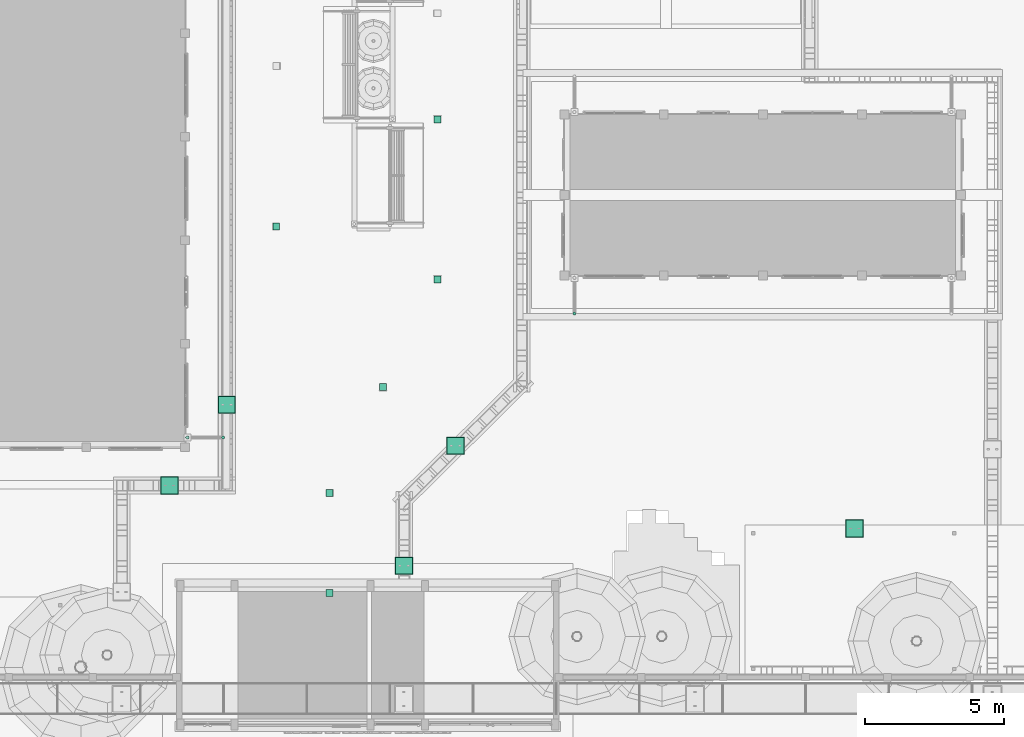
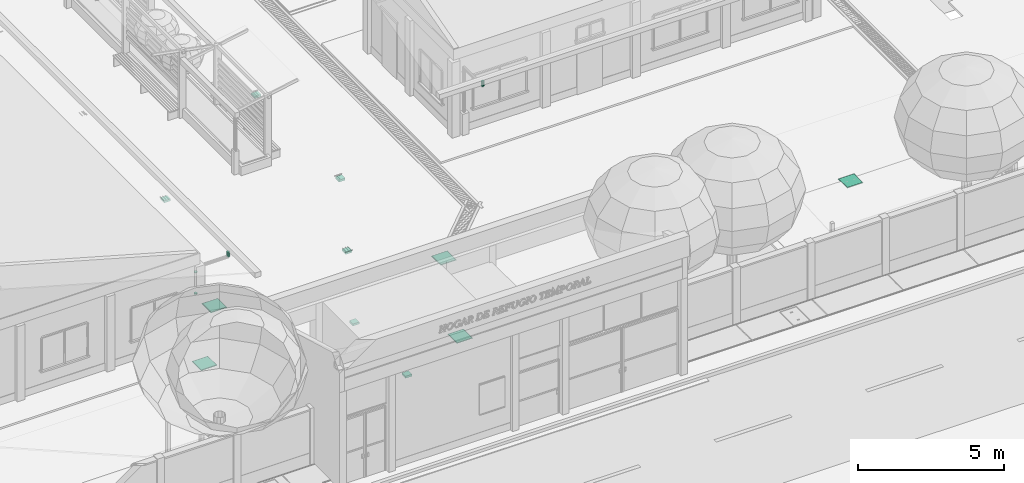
# One storey, part 110 of 166: 10 distribution chamber elements, 6 flow terminals, 4 flow segments.
"""IFC2X3 building model written with IfcOpenShell, lengths in metres."""

import ifcopenshell
import ifcopenshell.guid

model = None  # the IFC model being written
_history = None  # IfcOwnerHistory: only IFC2X3 demands one
_inside = {}  # id of a spatial element -> (the spatial element, [elements in it])
_under = {}  # id of a project, library or spatial element -> (it, [spatial elements below it])
_declared = {}  # id of a project -> (the project, [libraries it declares])
_typed = {}  # id of a type object -> (the type object, [elements of that type])
_made_of = {}  # id of a material, layer set ... -> (it, [elements and type objects made of it])


def new_model(schema):
    """Start an empty IFC model of exactly this schema.

    Asked for "IFC4X3", IfcOpenShell would pick the latest addendum, in which some entities
    have other attributes; the version numbers below select the first issue.
    IFC2X3 requires an IfcOwnerHistory on every rooted entity: one is made here for all.
    """
    global model, _history
    if schema == "IFC4X3":
        model = ifcopenshell.file(schema_version=(4, 3, 0, 0))
    else:
        model = ifcopenshell.file(schema=schema)
    _inside.clear()
    _under.clear()
    _declared.clear()
    _typed.clear()
    _made_of.clear()
    _history = None
    if model.schema == "IFC2X3":
        org = make("IfcOrganization", Name="unknown")
        user = make(
            "IfcPersonAndOrganization",
            ThePerson=make("IfcPerson", FamilyName="unknown"),
            TheOrganization=org,
        )
        app = make(
            "IfcApplication",
            ApplicationDeveloper=org,
            Version="unknown",
            ApplicationFullName="unknown",
            ApplicationIdentifier="unknown",
        )
        _history = make(
            "IfcOwnerHistory",
            OwningUser=user,
            OwningApplication=app,
            ChangeAction="ADDED",
            CreationDate=0,
        )
    return model


def make(cls, **values):
    """One entity of the class cls with the attributes given. An attribute that is None is left unset."""
    return model.create_entity(
        cls, **{name: value for name, value in values.items() if value is not None}
    )


def rooted(cls, **values):
    """An entity with a GlobalId (a new one), such as an element, a storey or a relation."""
    return make(cls, GlobalId=ifcopenshell.guid.new(), OwnerHistory=_history, **values)


def si_unit(unit_type, name, prefix=None):
    """IfcSIUnit, for example si_unit("LENGTHUNIT", "METRE", prefix="MILLI")."""
    return make("IfcSIUnit", UnitType=unit_type, Prefix=prefix, Name=name)


def assignment(units):
    """IfcUnitAssignment: the units of a project."""
    return None if units is None else make("IfcUnitAssignment", Units=units)


def point(xyz):
    """IfcCartesianPoint."""
    return None if xyz is None else make("IfcCartesianPoint", Coordinates=xyz)


def direction(xyz):
    """IfcDirection."""
    return None if xyz is None else make("IfcDirection", DirectionRatios=xyz)


def frame(location, z_axis=None, x_axis=None):
    """IfcAxis2Placement3D, a coordinate frame: its origin and axes. An axis left out is left unset."""
    return make(
        "IfcAxis2Placement3D",
        Location=point(location),
        Axis=direction(z_axis),
        RefDirection=direction(x_axis),
    )


def origin():
    """The frame at (0, 0, 0) with its axes left unset."""
    return frame((0.0, 0.0, 0.0))


def origin_with_axes():
    """The frame at (0, 0, 0) with the z axis (0, 0, 1) and the x axis (1, 0, 0) written out."""
    return frame((0.0, 0.0, 0.0), z_axis=(0.0, 0.0, 1.0), x_axis=(1.0, 0.0, 0.0))


def place(relative_to, where):
    """IfcLocalPlacement: puts the frame where relative to a parent placement (None: the world)."""
    return make(
        "IfcLocalPlacement", PlacementRelTo=relative_to, RelativePlacement=where
    )


def context(
    kind, dimensions, precision=None, world=None, true_north=None, identifier=None
):
    """IfcGeometricRepresentationContext, for example the 3D "Model" context."""
    return make(
        "IfcGeometricRepresentationContext",
        ContextIdentifier=identifier,
        ContextType=kind,
        CoordinateSpaceDimension=dimensions,
        Precision=precision,
        WorldCoordinateSystem=world,
        TrueNorth=true_north,
    )


def subcontext(parent, identifier, kind, view, scale=None):
    """IfcGeometricRepresentationSubContext, for example "Body" below "Model"."""
    return make(
        "IfcGeometricRepresentationSubContext",
        ContextIdentifier=identifier,
        ContextType=kind,
        ParentContext=parent,
        TargetScale=scale,
        TargetView=view,
    )


def project(units=None, contexts=None):
    """IfcProject with its units and contexts."""
    return rooted(
        "IfcProject",
        Name="project",
        RepresentationContexts=contexts,
        UnitsInContext=assignment(units),
    )


def spatial(cls, under=None, at=None, **own):
    """A site, building, storey or space (cls), placed at a placement, below another one or the project."""
    s = rooted(cls, ObjectPlacement=at, **own)
    if under is not None:
        _under.setdefault(under.id(), (under, []))[1].append(s)
    return s


def faces_of(points, faces, orient=None, outer=None):
    """IfcFace entities. A face is a list of loops; a loop is a list of indices into points, from 0.

    orient and outer hold one flag for each loop. By default every Orientation is true, the
    first loop of a face is its IfcFaceOuterBound and the others are IfcFaceBound.
    """
    made = []
    for i, loops in enumerate(faces):
        bounds = []
        for j, loop in enumerate(loops):
            is_outer = j == 0 if outer is None else outer[i][j]
            bounds.append(
                make(
                    "IfcFaceOuterBound" if is_outer else "IfcFaceBound",
                    Bound=make("IfcPolyLoop", Polygon=[points[k] for k in loop]),
                    Orientation=True if orient is None else orient[i][j],
                )
            )
        made.append(make("IfcFace", Bounds=bounds))
    return made


def faceted_brep(points, faces, orient=None, outer=None, voids=None):
    """IfcFacetedBrep: a solid bounded by flat faces; with voids (closed shells), ...WithVoids."""
    shared = [point(p) for p in points]
    hull = make("IfcClosedShell", CfsFaces=faces_of(shared, faces, orient, outer))
    if voids is None:
        return make("IfcFacetedBrep", Outer=hull)
    return make(
        "IfcFacetedBrepWithVoids",
        Outer=hull,
        Voids=[
            make(cls, CfsFaces=faces_of(shared, fs, o, b)) for cls, fs, o, b in voids
        ],
    )


def shape(context_of_items, identifier, shape_type, items):
    """IfcShapeRepresentation: the items that make up one representation, for example the "Body"."""
    return make(
        "IfcShapeRepresentation",
        ContextOfItems=context_of_items,
        RepresentationIdentifier=identifier,
        RepresentationType=shape_type,
        Items=items,
    )


def made_of(thing, what):
    """Note that an element or type object is made of a material, layer set ...; save() writes the relation."""
    if what is not None:
        _made_of.setdefault(what.id(), (what, []))[1].append(thing)
    return thing


def element(
    cls,
    number,
    at=None,
    inside=None,
    cuts=None,
    type_object=None,
    material=None,
    context=None,
    identifier="Body",
    shape_type=None,
    held_by="IfcProductDefinitionShape",
    body=None,
    shapes=None,
    **own,
):
    """One element of the class cls, such as IfcWall. Its Tag is "e" and its number.

    at: its placement. inside: the storey or other place that contains it. cuts: it is an
    opening in that element (IfcRelVoidsElement). A single representation is given by context,
    identifier, shape_type and body (its items); several are given by shapes. held_by: the class
    of the entity that holds the representations. save() writes the other relations.
    """
    e = rooted(cls, Tag="e%d" % number, ObjectPlacement=at, **own)
    if body is not None:
        shapes = [shape(context, identifier, shape_type, body)]
    if shapes is not None:
        e.Representation = make(held_by, Representations=shapes)
    if inside is not None:
        _inside.setdefault(inside.id(), (inside, []))[1].append(e)
    if cuts is not None:
        rooted(
            "IfcRelVoidsElement", RelatingBuildingElement=cuts, RelatedOpeningElement=e
        )
    if type_object is not None:
        _typed.setdefault(type_object.id(), (type_object, []))[1].append(e)
    return made_of(e, material)


def aggregate(whole, parts):
    """IfcRelAggregates: a whole, such as a stair, and the parts it consists of."""
    return rooted("IfcRelAggregates", RelatingObject=whole, RelatedObjects=parts)


def save(model, path):
    """Write the relations noted so far, then the file.

    IfcRelAggregates (storeys below a building ...), IfcRelContainedInSpatialStructure (elements
    in a storey), IfcRelDefinesByType, IfcRelAssociatesMaterial and IfcRelDeclares: one each for
    every whole, place, type object, material and project.
    """
    for whole, parts in _under.values():
        aggregate(whole, parts)
    for where, things in _inside.values():
        rooted(
            "IfcRelContainedInSpatialStructure",
            RelatedElements=things,
            RelatingStructure=where,
        )
    for kind, things in _typed.values():
        rooted("IfcRelDefinesByType", RelatedObjects=things, RelatingType=kind)
    for what, things in _made_of.values():
        rooted("IfcRelAssociatesMaterial", RelatedObjects=things, RelatingMaterial=what)
    for by, libraries in _declared.values():
        rooted("IfcRelDeclares", RelatingContext=by, RelatedDefinitions=libraries)
    model.write(path)


model = new_model("IFC2X3")

# Units and contexts
model_context = context("Model", 3, precision=1e-05, world=origin_with_axes())
body_context = subcontext(model_context, "Body", "Model", "MODEL_VIEW")
ifc_project = project(units=[si_unit("LENGTHUNIT", "METRE"), si_unit("AREAUNIT", "SQUARE_METRE"), si_unit("VOLUMEUNIT", "CUBIC_METRE"), si_unit("PLANEANGLEUNIT", "RADIAN")], contexts=[model_context])

# Site, building, storey
site_placement = place(None, origin_with_axes())
site = spatial("IfcSite", under=ifc_project, at=site_placement, Name="Predio Los Mangos - Morales, San Martín", CompositionType="ELEMENT")
building_placement = place(site_placement, origin())
building = spatial("IfcBuilding", under=site, at=building_placement, Name="Hogar de Refugio Temporal", CompositionType="ELEMENT")
storey_placement = place(building_placement, origin())
storey = spatial("IfcBuildingStorey", under=building, at=storey_placement, Name="NIVEL 1 (NPT +0.00)", CompositionType="ELEMENT", Elevation=0.0)

# Flow segments
flow_segment_1_placement = place(storey_placement, origin())
element("IfcFlowSegment", 1, at=flow_segment_1_placement, inside=storey, Name="montante_boquilla", ObjectType="Montante PVC 4\"", context=body_context, shape_type="Brep", body=[
    faceted_brep([(32.98, 26.705, 3.13), (32.98, 26.705, 2.91), (32.9525, 26.6976, 2.91), (32.9525, 26.6976, 3.13), (32.9324, 26.6775, 2.91), (32.9324, 26.6775, 3.13), (32.925, 26.65, 2.91), (32.925, 26.65, 3.13), (32.9324, 26.6225, 2.91), (32.9324, 26.6225, 3.13), (32.9525, 26.6024, 2.91), (32.9525, 26.6024, 3.13), (32.98, 26.595, 2.91), (32.98, 26.595, 3.13), (33.0075, 26.6024, 2.91), (33.0075, 26.6024, 3.13), (33.0276, 26.6225, 2.91), (33.0276, 26.6225, 3.13), (33.035, 26.65, 2.91), (33.035, 26.65, 3.13), (33.0276, 26.6775, 2.91), (33.0276, 26.6775, 3.13), (33.0075, 26.6976, 2.91), (33.0075, 26.6976, 3.13)], [[[0, 1, 2, 3]], [[3, 2, 4, 5]], [[5, 4, 6, 7]], [[7, 6, 8, 9]], [[9, 8, 10, 11]], [[11, 10, 12, 13]], [[13, 12, 14, 15]], [[15, 14, 16, 17]], [[17, 16, 18, 19]], [[19, 18, 20, 21]], [[2, 1, 22, 20, 18, 16, 14, 12, 10, 8, 6, 4]], [[21, 20, 22, 23]], [[23, 22, 1, 0]], [[0, 3, 5, 7, 9, 11, 13, 15, 17, 19, 21, 23]]]),
])
flow_segment_2_placement = place(storey_placement, origin())
element("IfcFlowSegment", 2, at=flow_segment_2_placement, inside=storey, Name="montante_abrazadera", ObjectType="Montante PVC 4\"", context=body_context, shape_type="Brep", body=[
    faceted_brep([(31.69, 26.588, 1.8), (31.69, 26.588, 1.84), (31.659, 26.5963, 1.84), (31.659, 26.5963, 1.8), (31.6363, 26.619, 1.84), (31.6363, 26.619, 1.8), (31.628, 26.65, 1.84), (31.628, 26.65, 1.8), (31.6363, 26.681, 1.84), (31.6363, 26.681, 1.8), (31.659, 26.7037, 1.84), (31.659, 26.7037, 1.8), (31.69, 26.712, 1.84), (31.69, 26.712, 1.8), (31.721, 26.7037, 1.84), (31.721, 26.7037, 1.8), (31.7437, 26.681, 1.84), (31.7437, 26.681, 1.8), (31.752, 26.65, 1.84), (31.752, 26.65, 1.8), (31.7437, 26.619, 1.84), (31.7437, 26.619, 1.8), (31.721, 26.5963, 1.84), (31.721, 26.5963, 1.8)], [[[0, 1, 2, 3]], [[3, 2, 4, 5]], [[5, 4, 6, 7]], [[7, 6, 8, 9]], [[9, 8, 10, 11]], [[11, 10, 12, 13]], [[13, 12, 14, 15]], [[15, 14, 16, 17]], [[17, 16, 18, 19]], [[19, 18, 20, 21]], [[2, 1, 22, 20, 18, 16, 14, 12, 10, 8, 6, 4]], [[21, 20, 22, 23]], [[23, 22, 1, 0]], [[0, 3, 5, 7, 9, 11, 13, 15, 17, 19, 21, 23]]]),
])
flow_segment_3_placement = place(storey_placement, origin())
element("IfcFlowSegment", 3, at=flow_segment_3_placement, inside=storey, Name="montante_abrazadera", ObjectType="Montante PVC 4\"", context=body_context, shape_type="Brep", body=[
    faceted_brep([(31.69, 26.588, 2.7), (31.69, 26.588, 2.74), (31.659, 26.5963, 2.74), (31.659, 26.5963, 2.7), (31.6363, 26.619, 2.74), (31.6363, 26.619, 2.7), (31.628, 26.65, 2.74), (31.628, 26.65, 2.7), (31.6363, 26.681, 2.74), (31.6363, 26.681, 2.7), (31.659, 26.7037, 2.74), (31.659, 26.7037, 2.7), (31.69, 26.712, 2.74), (31.69, 26.712, 2.7), (31.721, 26.7037, 2.74), (31.721, 26.7037, 2.7), (31.7437, 26.681, 2.74), (31.7437, 26.681, 2.7), (31.752, 26.65, 2.74), (31.752, 26.65, 2.7), (31.7437, 26.619, 2.74), (31.7437, 26.619, 2.7), (31.721, 26.5963, 2.74), (31.721, 26.5963, 2.7)], [[[0, 1, 2, 3]], [[3, 2, 4, 5]], [[5, 4, 6, 7]], [[7, 6, 8, 9]], [[9, 8, 10, 11]], [[11, 10, 12, 13]], [[13, 12, 14, 15]], [[15, 14, 16, 17]], [[17, 16, 18, 19]], [[19, 18, 20, 21]], [[2, 1, 22, 20, 18, 16, 14, 12, 10, 8, 6, 4]], [[21, 20, 22, 23]], [[23, 22, 1, 0]], [[0, 3, 5, 7, 9, 11, 13, 15, 17, 19, 21, 23]]]),
])
flow_segment_4_placement = place(storey_placement, origin())
element("IfcFlowSegment", 4, at=flow_segment_4_placement, inside=storey, Name="montante_boquilla", ObjectType="Montante PVC 4\"", context=body_context, shape_type="Brep", body=[
    faceted_brep([(45.65, 31.175, 3.13), (45.65, 31.175, 2.91), (45.6225, 31.1676, 2.91), (45.6225, 31.1676, 3.13), (45.6024, 31.1475, 2.91), (45.6024, 31.1475, 3.13), (45.595, 31.12, 2.91), (45.595, 31.12, 3.13), (45.6024, 31.0925, 2.91), (45.6024, 31.0925, 3.13), (45.6225, 31.0724, 2.91), (45.6225, 31.0724, 3.13), (45.65, 31.065, 2.91), (45.65, 31.065, 3.13), (45.6775, 31.0724, 2.91), (45.6775, 31.0724, 3.13), (45.6976, 31.0925, 2.91), (45.6976, 31.0925, 3.13), (45.705, 31.12, 2.91), (45.705, 31.12, 3.13), (45.6976, 31.1475, 2.91), (45.6976, 31.1475, 3.13), (45.6775, 31.1676, 2.91), (45.6775, 31.1676, 3.13)], [[[0, 1, 2, 3]], [[3, 2, 4, 5]], [[5, 4, 6, 7]], [[7, 6, 8, 9]], [[9, 8, 10, 11]], [[11, 10, 12, 13]], [[13, 12, 14, 15]], [[15, 14, 16, 17]], [[17, 16, 18, 19]], [[19, 18, 20, 21]], [[2, 1, 22, 20, 18, 16, 14, 12, 10, 8, 6, 4]], [[21, 20, 22, 23]], [[23, 22, 1, 0]], [[0, 3, 5, 7, 9, 11, 13, 15, 17, 19, 21, 23]]]),
])

# Flow terminals
flow_terminal_1_placement = place(storey_placement, origin())
element("IfcFlowTerminal", 5, at=flow_terminal_1_placement, inside=storey, Name="sumidero_fondo", ObjectType="Sumidero con rejilla", context=body_context, shape_type="Brep", body=[
    faceted_brep([(40.585, 37.994, -0.02), (40.585, 38.244, -0.02), (40.835, 38.244, -0.02), (40.835, 37.994, -0.02), (40.585, 37.994, 0.064), (40.835, 37.994, 0.064), (40.835, 38.244, 0.064), (40.585, 38.244, 0.064)], [[[0, 1, 2, 3]], [[4, 5, 6, 7]], [[0, 3, 5, 4]], [[3, 2, 6, 5]], [[2, 1, 7, 6]], [[1, 0, 4, 7]]]),
])
flow_terminal_2_placement = place(storey_placement, origin())
element("IfcFlowTerminal", 6, at=flow_terminal_2_placement, inside=storey, Name="sumidero_fondo", ObjectType="Sumidero con rejilla", context=body_context, shape_type="Brep", body=[
    faceted_brep([(34.772, 34.144, -0.02), (34.772, 34.394, -0.02), (35.022, 34.394, -0.02), (35.022, 34.144, -0.02), (34.772, 34.144, 0.064), (35.022, 34.144, 0.064), (35.022, 34.394, 0.064), (34.772, 34.394, 0.064)], [[[0, 1, 2, 3]], [[4, 5, 6, 7]], [[0, 3, 5, 4]], [[3, 2, 6, 5]], [[2, 1, 7, 6]], [[1, 0, 4, 7]]]),
])
flow_terminal_3_placement = place(storey_placement, origin())
element("IfcFlowTerminal", 7, at=flow_terminal_3_placement, inside=storey, Name="sumidero_fondo", ObjectType="Sumidero con rejilla", context=body_context, shape_type="Brep", body=[
    faceted_brep([(40.585, 32.219, -0.02), (40.585, 32.469, -0.02), (40.835, 32.469, -0.02), (40.835, 32.219, -0.02), (40.585, 32.219, 0.064), (40.835, 32.219, 0.064), (40.835, 32.469, 0.064), (40.585, 32.469, 0.064)], [[[0, 1, 2, 3]], [[4, 5, 6, 7]], [[0, 3, 5, 4]], [[3, 2, 6, 5]], [[2, 1, 7, 6]], [[1, 0, 4, 7]]]),
])
flow_terminal_4_placement = place(storey_placement, origin())
element("IfcFlowTerminal", 8, at=flow_terminal_4_placement, inside=storey, Name="sumidero_fondo", ObjectType="Sumidero con rejilla", context=body_context, shape_type="Brep", body=[
    faceted_brep([(38.622, 28.354, -0.02), (38.622, 28.604, -0.02), (38.872, 28.604, -0.02), (38.872, 28.354, -0.02), (38.622, 28.354, 0.064), (38.872, 28.354, 0.064), (38.872, 28.604, 0.064), (38.622, 28.604, 0.064)], [[[0, 1, 2, 3]], [[4, 5, 6, 7]], [[0, 3, 5, 4]], [[3, 2, 6, 5]], [[2, 1, 7, 6]], [[1, 0, 4, 7]]]),
])
flow_terminal_5_placement = place(storey_placement, origin())
element("IfcFlowTerminal", 9, at=flow_terminal_5_placement, inside=storey, Name="sumidero_fondo", ObjectType="Sumidero con rejilla", context=body_context, shape_type="Brep", body=[
    faceted_brep([(36.697, 24.519, -0.02), (36.697, 24.769, -0.02), (36.947, 24.769, -0.02), (36.947, 24.519, -0.02), (36.697, 24.519, 0.064), (36.947, 24.519, 0.064), (36.947, 24.769, 0.064), (36.697, 24.769, 0.064)], [[[0, 1, 2, 3]], [[4, 5, 6, 7]], [[0, 3, 5, 4]], [[3, 2, 6, 5]], [[2, 1, 7, 6]], [[1, 0, 4, 7]]]),
])
flow_terminal_6_placement = place(storey_placement, origin())
element("IfcFlowTerminal", 10, at=flow_terminal_6_placement, inside=storey, Name="sumidero_fondo", ObjectType="Sumidero con rejilla", context=body_context, shape_type="Brep", body=[
    faceted_brep([(36.697, 20.91, -0.02), (36.697, 21.16, -0.02), (36.947, 21.16, -0.02), (36.947, 20.91, -0.02), (36.697, 20.91, 0.064), (36.947, 20.91, 0.064), (36.947, 21.16, 0.064), (36.697, 21.16, 0.064)], [[[0, 1, 2, 3]], [[4, 5, 6, 7]], [[0, 3, 5, 4]], [[3, 2, 6, 5]], [[2, 1, 7, 6]], [[1, 0, 4, 7]]]),
])

# Distribution chamber elements
distribution_chamber_element_1_placement = place(storey_placement, origin())
element("IfcDistributionChamberElement", 11, at=distribution_chamber_element_1_placement, inside=storey, Name="tapa_insp_junta", ObjectType="Tapa de inspección", context=body_context, shape_type="Brep", body=[
    faceted_brep([(32.795, 27.51, 0.082), (32.795, 28.15, 0.082), (33.435, 28.15, 0.082), (33.435, 27.51, 0.082), (32.795, 27.51, 0.096), (33.435, 27.51, 0.096), (33.435, 28.15, 0.096), (32.795, 28.15, 0.096)], [[[0, 1, 2, 3]], [[4, 5, 6, 7]], [[0, 3, 5, 4]], [[3, 2, 6, 5]], [[2, 1, 7, 6]], [[1, 0, 4, 7]]]),
])
distribution_chamber_element_2_placement = place(storey_placement, origin())
element("IfcDistributionChamberElement", 12, at=distribution_chamber_element_2_placement, inside=storey, Name="tapa_inspeccion", ObjectType="Tapa de inspección", context=body_context, shape_type="Brep", body=[
    faceted_brep([(32.815, 27.53, 0.082), (32.815, 28.13, 0.082), (33.415, 28.13, 0.082), (33.415, 27.53, 0.082), (32.815, 27.53, 0.104), (33.415, 27.53, 0.104), (33.415, 28.13, 0.104), (32.815, 28.13, 0.104)], [[[0, 1, 2, 3]], [[4, 5, 6, 7]], [[0, 3, 5, 4]], [[3, 2, 6, 5]], [[2, 1, 7, 6]], [[1, 0, 4, 7]]]),
])
distribution_chamber_element_3_placement = place(storey_placement, origin())
element("IfcDistributionChamberElement", 13, at=distribution_chamber_element_3_placement, inside=storey, Name="tapa_insp_junta", ObjectType="Tapa de inspección", context=body_context, shape_type="Brep", body=[
    faceted_brep([(30.723, 24.599, 0.148), (30.723, 25.239, 0.148), (31.363, 25.239, 0.148), (31.363, 24.599, 0.148), (30.723, 24.599, 0.162), (31.363, 24.599, 0.162), (31.363, 25.239, 0.162), (30.723, 25.239, 0.162)], [[[0, 1, 2, 3]], [[4, 5, 6, 7]], [[0, 3, 5, 4]], [[3, 2, 6, 5]], [[2, 1, 7, 6]], [[1, 0, 4, 7]]]),
])
distribution_chamber_element_4_placement = place(storey_placement, origin())
element("IfcDistributionChamberElement", 14, at=distribution_chamber_element_4_placement, inside=storey, Name="tapa_inspeccion", ObjectType="Tapa de inspección", context=body_context, shape_type="Brep", body=[
    faceted_brep([(30.743, 24.619, 0.148), (30.743, 25.219, 0.148), (31.343, 25.219, 0.148), (31.343, 24.619, 0.148), (30.743, 24.619, 0.17), (31.343, 24.619, 0.17), (31.343, 25.219, 0.17), (30.743, 25.219, 0.17)], [[[0, 1, 2, 3]], [[4, 5, 6, 7]], [[0, 3, 5, 4]], [[3, 2, 6, 5]], [[2, 1, 7, 6]], [[1, 0, 4, 7]]]),
])
distribution_chamber_element_5_placement = place(storey_placement, origin())
element("IfcDistributionChamberElement", 15, at=distribution_chamber_element_5_placement, inside=storey, Name="tapa_insp_junta", ObjectType="Tapa de inspección", context=body_context, shape_type="Brep", body=[
    faceted_brep([(39.185, 21.703, 0.082), (39.185, 22.343, 0.082), (39.825, 22.343, 0.082), (39.825, 21.703, 0.082), (39.185, 21.703, 0.096), (39.825, 21.703, 0.096), (39.825, 22.343, 0.096), (39.185, 22.343, 0.096)], [[[0, 1, 2, 3]], [[4, 5, 6, 7]], [[0, 3, 5, 4]], [[3, 2, 6, 5]], [[2, 1, 7, 6]], [[1, 0, 4, 7]]]),
])
distribution_chamber_element_6_placement = place(storey_placement, origin())
element("IfcDistributionChamberElement", 16, at=distribution_chamber_element_6_placement, inside=storey, Name="tapa_inspeccion", ObjectType="Tapa de inspección", context=body_context, shape_type="Brep", body=[
    faceted_brep([(39.205, 21.723, 0.082), (39.205, 22.323, 0.082), (39.805, 22.323, 0.082), (39.805, 21.723, 0.082), (39.205, 21.723, 0.104), (39.805, 21.723, 0.104), (39.805, 22.323, 0.104), (39.205, 22.323, 0.104)], [[[0, 1, 2, 3]], [[4, 5, 6, 7]], [[0, 3, 5, 4]], [[3, 2, 6, 5]], [[2, 1, 7, 6]], [[1, 0, 4, 7]]]),
])
distribution_chamber_element_7_placement = place(storey_placement, origin())
element("IfcDistributionChamberElement", 17, at=distribution_chamber_element_7_placement, inside=storey, Name="tapa_insp_junta", ObjectType="Tapa de inspección", context=body_context, shape_type="Brep", body=[
    faceted_brep([(41.041, 26.031, 0.082), (41.041, 26.671, 0.082), (41.681, 26.671, 0.082), (41.681, 26.031, 0.082), (41.041, 26.031, 0.096), (41.681, 26.031, 0.096), (41.681, 26.671, 0.096), (41.041, 26.671, 0.096)], [[[0, 1, 2, 3]], [[4, 5, 6, 7]], [[0, 3, 5, 4]], [[3, 2, 6, 5]], [[2, 1, 7, 6]], [[1, 0, 4, 7]]]),
])
distribution_chamber_element_8_placement = place(storey_placement, origin())
element("IfcDistributionChamberElement", 18, at=distribution_chamber_element_8_placement, inside=storey, Name="tapa_inspeccion", ObjectType="Tapa de inspección", context=body_context, shape_type="Brep", body=[
    faceted_brep([(41.061, 26.051, 0.082), (41.061, 26.651, 0.082), (41.661, 26.651, 0.082), (41.661, 26.051, 0.082), (41.061, 26.051, 0.104), (41.661, 26.051, 0.104), (41.661, 26.651, 0.104), (41.061, 26.651, 0.104)], [[[0, 1, 2, 3]], [[4, 5, 6, 7]], [[0, 3, 5, 4]], [[3, 2, 6, 5]], [[2, 1, 7, 6]], [[1, 0, 4, 7]]]),
])
distribution_chamber_element_9_placement = place(storey_placement, origin())
element("IfcDistributionChamberElement", 19, at=distribution_chamber_element_9_placement, inside=storey, Name="tapa_insp_junta", ObjectType="Tapa de inspección", context=body_context, shape_type="Brep", body=[
    faceted_brep([(55.438, 23.046, 0.082), (55.438, 23.686, 0.082), (56.078, 23.686, 0.082), (56.078, 23.046, 0.082), (55.438, 23.046, 0.096), (56.078, 23.046, 0.096), (56.078, 23.686, 0.096), (55.438, 23.686, 0.096)], [[[0, 1, 2, 3]], [[4, 5, 6, 7]], [[0, 3, 5, 4]], [[3, 2, 6, 5]], [[2, 1, 7, 6]], [[1, 0, 4, 7]]]),
])
distribution_chamber_element_10_placement = place(storey_placement, origin())
element("IfcDistributionChamberElement", 20, at=distribution_chamber_element_10_placement, inside=storey, Name="tapa_inspeccion", ObjectType="Tapa de inspección", context=body_context, shape_type="Brep", body=[
    faceted_brep([(55.458, 23.066, 0.082), (55.458, 23.666, 0.082), (56.058, 23.666, 0.082), (56.058, 23.066, 0.082), (55.458, 23.066, 0.104), (56.058, 23.066, 0.104), (56.058, 23.666, 0.104), (55.458, 23.666, 0.104)], [[[0, 1, 2, 3]], [[4, 5, 6, 7]], [[0, 3, 5, 4]], [[3, 2, 6, 5]], [[2, 1, 7, 6]], [[1, 0, 4, 7]]]),
])

save(model, "model.ifc")
